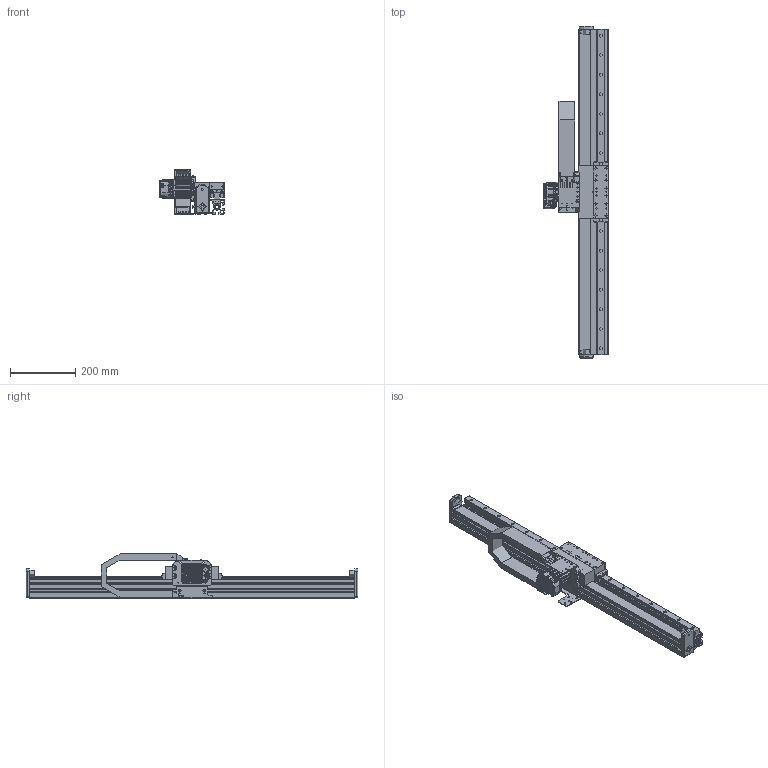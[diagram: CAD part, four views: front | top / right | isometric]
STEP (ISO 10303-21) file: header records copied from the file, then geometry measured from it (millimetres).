
FILE_DESCRIPTION( ( '' ), ' ' );
FILE_NAME( '/vol/tmp/translate-13548856398688223316/5c7ea0cbb628021adcd18965.step', '2019-03-05T16:16:16', ( '' ), ( '' ), ' ', ' ', ' ' );
FILE_SCHEMA( ( 'AUTOMOTIVE_DESIGN { 1 0 10303 214 1 1 1 1 }' ) );
Length unit declared in the file: metre
Products named in the file (77): RAIL FASTENERS <8>; 100001-8065 M5-.80 X 25 ALLOY SHCS; 102684-001 BOSCH 10mm T-BLOCK M5; 20mm BEARING RAIL CAP; RAIL FASTENERS <14>; RAIL FASTENERS <1>; RAIL FASTENERS <6>; TRAY FASTENERS <4>; #6698; #6706; TRAY FASTENERS <1>; RAIL FASTENERS <13>; RAIL FASTENERS <10>; TRAY FASTENERS <5>; RAIL FASTENERS <7>; RAIL FASTENERS <9>; RAIL FASTENERS <17>; RAIL FASTENERS <12>; RAIL FASTENERS <3>; TRAY FASTENERS <3>; RAIL FASTENERS <15>; RAIL FASTENERS <4>; RAIL FASTENERS <2>; TRAY FASTENERS <2>; RAIL FASTENERS <5>; RAIL FASTENERS <16>; RAIL FASTENERS <11>; RAIL <1>; 102732-1000 20mm STANDARD GUIDE RAIL; 106888-001 20mm RAIL COVER; 104587-001 SBL-M DYNAMIC BEARING ASSEMBLY <2>; 103126-001 SBL-M BEARING SHAFT; 102638-005 5202 SHIELDED DOUBLE ROW BALL BEARING; TRAY <1>; 102610-005 VHB TAPE 1-1/4 WIDE; 102656-1000 SBL-M BELT TRAY; 102567-001 T5 X 32mm BELTING; CPM-23XX & PINION <1>; 100013-008 M4 X 6 SS SET SCREW; 104885-002 SBL-M PINION GEAR .375 BORE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
Assembly tree (178 placements, depth 5):
  Assem1
    102567-001 T5 X 32mm BELTING
    102977-001 LINKS
    1000 CHASSIS <1>
      102576-1000 45-SERIES PROFILE 45X90H
      RAIL <1>
        102732-1000 20mm STANDARD GUIDE RAIL
        106888-001 20mm RAIL COVER
        RAIL FASTENERS <9>
          20mm BEARING RAIL CAP
          102684-001 BOSCH 10mm T-BLOCK M5
          100001-8065 M5-.80 X 25 ALLOY SHCS
        RAIL FASTENERS <10>
          102684-001 BOSCH 10mm T-BLOCK M5
          20mm BEARING RAIL CAP
          100001-8065 M5-.80 X 25 ALLOY SHCS
        RAIL FASTENERS <1>
          100001-8065 M5-.80 X 25 ALLOY SHCS
          102684-001 BOSCH 10mm T-BLOCK M5
          20mm BEARING RAIL CAP
        RAIL FASTENERS <17>
          102684-001 BOSCH 10mm T-BLOCK M5
          100001-8065 M5-.80 X 25 ALLOY SHCS
          20mm BEARING RAIL CAP
        RAIL FASTENERS <6>
          20mm BEARING RAIL CAP
          100001-8065 M5-.80 X 25 ALLOY SHCS
          102684-001 BOSCH 10mm T-BLOCK M5
        RAIL FASTENERS <11>
          100001-8065 M5-.80 X 25 ALLOY SHCS
          20mm BEARING RAIL CAP
          102684-001 BOSCH 10mm T-BLOCK M5
        RAIL FASTENERS <12>
          102684-001 BOSCH 10mm T-BLOCK M5
          20mm BEARING RAIL CAP
          100001-8065 M5-.80 X 25 ALLOY SHCS
        RAIL FASTENERS <5>
          20mm BEARING RAIL CAP
          102684-001 BOSCH 10mm T-BLOCK M5
          100001-8065 M5-.80 X 25 ALLOY SHCS
        RAIL FASTENERS <8>
          100001-8065 M5-.80 X 25 ALLOY SHCS
          102684-001 BOSCH 10mm T-BLOCK M5
          20mm BEARING RAIL CAP
        RAIL FASTENERS <13>
          20mm BEARING RAIL CAP
          102684-001 BOSCH 10mm T-BLOCK M5
          100001-8065 M5-.80 X 25 ALLOY SHCS
        RAIL FASTENERS <16>
          20mm BEARING RAIL CAP
          102684-001 BOSCH 10mm T-BLOCK M5
          100001-8065 M5-.80 X 25 ALLOY SHCS
        RAIL FASTENERS <4>
          100001-8065 M5-.80 X 25 ALLOY SHCS
          102684-001 BOSCH 10mm T-BLOCK M5
          20mm BEARING RAIL CAP
        RAIL FASTENERS <3>
          102684-001 BOSCH 10mm T-BLOCK M5
          20mm BEARING RAIL CAP
          100001-8065 M5-.80 X 25 ALLOY SHCS
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Bounding box: 198.16 x 1019.05 x 135.99 mm (x, y, z)
Topology: 165 solids, 172 shells, 7244 faces, 17954 edges, 11247 vertices
Faces by surface type: plane 2653, cylinder 1914, bspline 1047, torus 864, cone 677, sphere 47, extrusion 42
Full cylindrical faces by diameter (mm): 1.587 x1, 1.6 x1, 1.846 x1, 2 x1, 2.096 x1, 2.44 x114, 2.5 x24, 2.54 x2, 2.6 x4, 2.66 x4, 3 x12, 3.048 x4, 3.09 x4, 3.175 x2, 3.2 x8, 3.3 x2, 3.4 x2, 3.454 x5, 4 x10, 4.166 x5, 4.2 x13, 4.216 x16, 4.5 x9, 5 x35, 5.004 x37, 5.156 x5, 5.2 x4, 5.5 x36, 5.563 x12, 5.85 x8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
Entity records: 294120 total; most frequent: CARTESIAN_POINT 122540, ORIENTED_EDGE 26178, DIRECTION 25721, EDGE_CURVE 13089, AXIS2_PLACEMENT_3D 10328, VERTEX_POINT 8523, EDGE_LOOP 6880, FACE_OUTER_BOUND 6158
